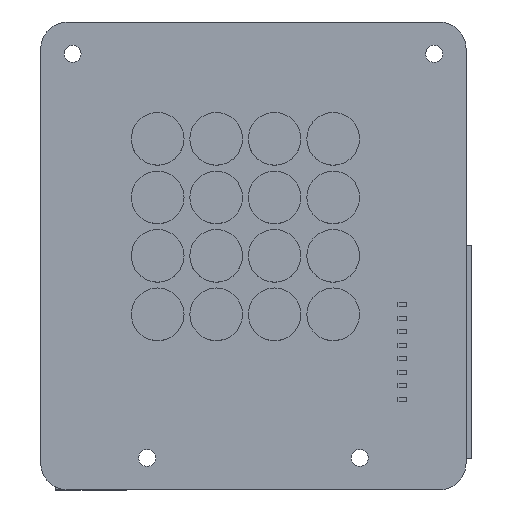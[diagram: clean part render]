
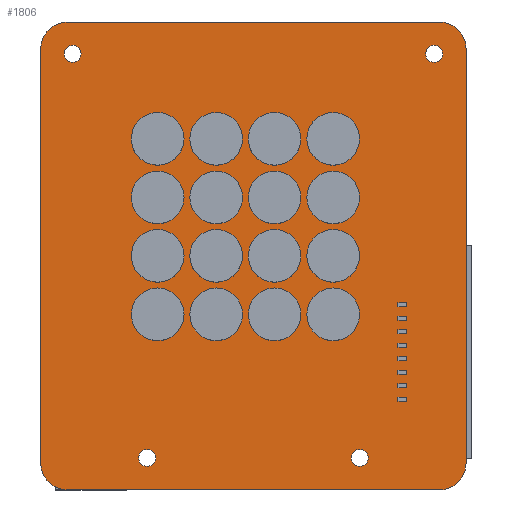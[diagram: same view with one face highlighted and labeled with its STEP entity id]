
A CAD part, top view. The second image highlights one B-rep face of the part: STEP entity #1806.
In plain terms, the highlighted planar face has unit normal (0, 0, 1).
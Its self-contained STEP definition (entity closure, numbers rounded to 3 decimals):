
#20 = AXIS2_PLACEMENT_3D ( 'NONE', #4452, #5253, #8046 ) ;
#189 = CARTESIAN_POINT ( 'NONE',  ( 41.5, -44.5, 0. ) ) ;
#225 = CIRCLE ( 'NONE', #4832, 5. ) ;
#297 = CARTESIAN_POINT ( 'NONE',  ( 36.5, -44.5, 0. ) ) ;
#321 = DIRECTION ( 'NONE',  ( 0., 0., 1. ) ) ;
#332 = CARTESIAN_POINT ( 'NONE',  ( 35.5, 32.5, 0. ) ) ;
#378 = ORIENTED_EDGE ( 'NONE', *, *, #4892, .F. ) ;
#558 = AXIS2_PLACEMENT_3D ( 'NONE', #7488, #2281, #4003 ) ;
#590 = EDGE_CURVE ( 'NONE', #10795, #3404, #10959, .T. ) ;
#726 = CARTESIAN_POINT ( 'NONE',  ( -16.9, -43.5, 0. ) ) ;
#751 = CIRCLE ( 'NONE', #558, 5. ) ;
#1052 = CARTESIAN_POINT ( 'NONE',  ( 33.9, 32.5, 0. ) ) ;
#1063 = VECTOR ( 'NONE', #1127, 1000. ) ;
#1074 = LINE ( 'NONE', #4716, #1063 ) ;
#1109 = VERTEX_POINT ( 'NONE', #10925 ) ;
#1127 = DIRECTION ( 'NONE',  ( 0., -1., 0. ) ) ;
#1201 = DIRECTION ( 'NONE',  ( 1., 0., 0. ) ) ;
#1223 = DIRECTION ( 'NONE',  ( 1., 0., 0. ) ) ;
#1283 = ORIENTED_EDGE ( 'NONE', *, *, #3046, .F. ) ;
#1292 = CARTESIAN_POINT ( 'NONE',  ( -38.5, 33.5, 0. ) ) ;
#1441 = VERTEX_POINT ( 'NONE', #6553 ) ;
#1482 = DIRECTION ( 'NONE',  ( 0., 0., 1. ) ) ;
#1484 = EDGE_CURVE ( 'NONE', #2871, #1441, #9081, .T. ) ;
#1625 = ORIENTED_EDGE ( 'NONE', *, *, #10818, .T. ) ;
#1645 = DIRECTION ( 'NONE',  ( 0., 0., 1. ) ) ;
#1762 = VERTEX_POINT ( 'NONE', #7730 ) ;
#1806 = ADVANCED_FACE ( 'NONE', ( #5820, #5999, #8648, #3332, #2356 ), #6922, .T. ) ;
#1850 = ORIENTED_EDGE ( 'NONE', *, *, #590, .F. ) ;
#1858 = CARTESIAN_POINT ( 'NONE',  ( 21.5, -43.5, 0. ) ) ;
#2072 = DIRECTION ( 'NONE',  ( 0., 0., 1. ) ) ;
#2130 = DIRECTION ( 'NONE',  ( 1., 0., 0. ) ) ;
#2240 = EDGE_CURVE ( 'NONE', #7969, #1762, #3371, .T. ) ;
#2281 = DIRECTION ( 'NONE',  ( 0., 0., 1. ) ) ;
#2303 = DIRECTION ( 'NONE',  ( 1., 0., 0. ) ) ;
#2328 = ORIENTED_EDGE ( 'NONE', *, *, #5168, .F. ) ;
#2356 = FACE_BOUND ( 'NONE', #9980, .T. ) ;
#2471 = CARTESIAN_POINT ( 'NONE',  ( 19.9, -43.5, 0. ) ) ;
#2514 = ORIENTED_EDGE ( 'NONE', *, *, #7400, .F. ) ;
#2537 = EDGE_LOOP ( 'NONE', ( #7343, #2328 ) ) ;
#2616 = CIRCLE ( 'NONE', #20, 5. ) ;
#2871 = VERTEX_POINT ( 'NONE', #8041 ) ;
#2926 = DIRECTION ( 'NONE',  ( 1., 0., 0. ) ) ;
#3036 = CARTESIAN_POINT ( 'NONE',  ( -18.5, -43.5, 0. ) ) ;
#3046 = EDGE_CURVE ( 'NONE', #1762, #7969, #5206, .T. ) ;
#3104 = CARTESIAN_POINT ( 'NONE',  ( -32.5, 32.5, 0. ) ) ;
#3237 = CARTESIAN_POINT ( 'NONE',  ( -33.5, 38.5, 0. ) ) ;
#3332 = FACE_BOUND ( 'NONE', #10887, .T. ) ;
#3339 = EDGE_CURVE ( 'NONE', #4843, #3742, #9281, .T. ) ;
#3371 = CIRCLE ( 'NONE', #8909, 1.6 ) ;
#3404 = VERTEX_POINT ( 'NONE', #5643 ) ;
#3601 = CARTESIAN_POINT ( 'NONE',  ( 36.5, 38.5, 0. ) ) ;
#3665 = DIRECTION ( 'NONE',  ( 0., 0., 1. ) ) ;
#3742 = VERTEX_POINT ( 'NONE', #6452 ) ;
#3888 = DIRECTION ( 'NONE',  ( 0., 1., 0. ) ) ;
#3910 = CARTESIAN_POINT ( 'NONE',  ( 36.5, 33.5, 0. ) ) ;
#3986 = DIRECTION ( 'NONE',  ( 1., 0., 0. ) ) ;
#4003 = DIRECTION ( 'NONE',  ( 1., 0., 0. ) ) ;
#4072 = CIRCLE ( 'NONE', #7412, 1.6 ) ;
#4284 = CARTESIAN_POINT ( 'NONE',  ( 41.5, -44.5, 0. ) ) ;
#4381 = AXIS2_PLACEMENT_3D ( 'NONE', #8273, #6720, #3986 ) ;
#4452 = CARTESIAN_POINT ( 'NONE',  ( -33.5, -44.5, 0. ) ) ;
#4455 = CIRCLE ( 'NONE', #10936, 1.6 ) ;
#4470 = DIRECTION ( 'NONE',  ( 1., 0., 0. ) ) ;
#4496 = AXIS2_PLACEMENT_3D ( 'NONE', #3104, #10065, #11090 ) ;
#4503 = EDGE_CURVE ( 'NONE', #7206, #5685, #225, .T. ) ;
#4579 = CIRCLE ( 'NONE', #6250, 5. ) ;
#4667 = VERTEX_POINT ( 'NONE', #2471 ) ;
#4716 = CARTESIAN_POINT ( 'NONE',  ( -38.5, 33.5, 0. ) ) ;
#4832 = AXIS2_PLACEMENT_3D ( 'NONE', #3910, #321, #10171 ) ;
#4843 = VERTEX_POINT ( 'NONE', #8877 ) ;
#4892 = EDGE_CURVE ( 'NONE', #3404, #10795, #4072, .T. ) ;
#4924 = CIRCLE ( 'NONE', #4381, 1.6 ) ;
#4950 = ORIENTED_EDGE ( 'NONE', *, *, #3339, .F. ) ;
#4962 = EDGE_CURVE ( 'NONE', #11404, #10401, #751, .T. ) ;
#5056 = CARTESIAN_POINT ( 'NONE',  ( -33.5, -44.5, 0. ) ) ;
#5168 = EDGE_CURVE ( 'NONE', #1109, #4667, #4455, .T. ) ;
#5206 = CIRCLE ( 'NONE', #8538, 1.6 ) ;
#5253 = DIRECTION ( 'NONE',  ( 0., 0., 1. ) ) ;
#5453 = LINE ( 'NONE', #189, #7912 ) ;
#5623 = EDGE_CURVE ( 'NONE', #9105, #2871, #2616, .T. ) ;
#5643 = CARTESIAN_POINT ( 'NONE',  ( 37.1, 32.5, 0. ) ) ;
#5682 = DIRECTION ( 'NONE',  ( 0., 0., 1. ) ) ;
#5685 = VERTEX_POINT ( 'NONE', #9816 ) ;
#5820 = FACE_BOUND ( 'NONE', #2537, .T. ) ;
#5983 = VERTEX_POINT ( 'NONE', #4284 ) ;
#5999 = FACE_BOUND ( 'NONE', #9425, .T. ) ;
#6250 = AXIS2_PLACEMENT_3D ( 'NONE', #297, #10966, #1223 ) ;
#6357 = VECTOR ( 'NONE', #10791, 1000. ) ;
#6452 = CARTESIAN_POINT ( 'NONE',  ( -30.9, 32.5, 0. ) ) ;
#6460 = ORIENTED_EDGE ( 'NONE', *, *, #1484, .T. ) ;
#6510 = DIRECTION ( 'NONE',  ( 0., 0., 1. ) ) ;
#6553 = CARTESIAN_POINT ( 'NONE',  ( 36.5, -49.5, 0. ) ) ;
#6720 = DIRECTION ( 'NONE',  ( 0., 0., 1. ) ) ;
#6726 = AXIS2_PLACEMENT_3D ( 'NONE', #5056, #1645, #2303 ) ;
#6821 = CARTESIAN_POINT ( 'NONE',  ( 21.5, -43.5, 0. ) ) ;
#6846 = ORIENTED_EDGE ( 'NONE', *, *, #4503, .T. ) ;
#6922 = PLANE ( 'NONE',  #6726 ) ;
#6949 = DIRECTION ( 'NONE',  ( -1., 0., 0. ) ) ;
#7206 = VERTEX_POINT ( 'NONE', #7607 ) ;
#7246 = CARTESIAN_POINT ( 'NONE',  ( -33.5, -49.5, 0. ) ) ;
#7343 = ORIENTED_EDGE ( 'NONE', *, *, #11390, .F. ) ;
#7400 = EDGE_CURVE ( 'NONE', #3742, #4843, #4924, .T. ) ;
#7412 = AXIS2_PLACEMENT_3D ( 'NONE', #11027, #6510, #2926 ) ;
#7488 = CARTESIAN_POINT ( 'NONE',  ( -33.5, 33.5, 0. ) ) ;
#7607 = CARTESIAN_POINT ( 'NONE',  ( 41.5, 33.5, 0. ) ) ;
#7662 = ORIENTED_EDGE ( 'NONE', *, *, #2240, .F. ) ;
#7674 = ORIENTED_EDGE ( 'NONE', *, *, #11004, .T. ) ;
#7730 = CARTESIAN_POINT ( 'NONE',  ( -20.1, -43.5, 0. ) ) ;
#7912 = VECTOR ( 'NONE', #3888, 1000. ) ;
#7929 = ORIENTED_EDGE ( 'NONE', *, *, #4962, .T. ) ;
#7969 = VERTEX_POINT ( 'NONE', #726 ) ;
#8041 = CARTESIAN_POINT ( 'NONE',  ( -33.5, -49.5, 0. ) ) ;
#8046 = DIRECTION ( 'NONE',  ( 1., 0., 0. ) ) ;
#8257 = DIRECTION ( 'NONE',  ( 0., 0., 1. ) ) ;
#8267 = EDGE_CURVE ( 'NONE', #10401, #9105, #1074, .T. ) ;
#8273 = CARTESIAN_POINT ( 'NONE',  ( -32.5, 32.5, 0. ) ) ;
#8538 = AXIS2_PLACEMENT_3D ( 'NONE', #10074, #2072, #2130 ) ;
#8643 = AXIS2_PLACEMENT_3D ( 'NONE', #6821, #1482, #11056 ) ;
#8648 = FACE_OUTER_BOUND ( 'NONE', #9166, .T. ) ;
#8672 = ORIENTED_EDGE ( 'NONE', *, *, #8267, .T. ) ;
#8877 = CARTESIAN_POINT ( 'NONE',  ( -34.1, 32.5, 0. ) ) ;
#8909 = AXIS2_PLACEMENT_3D ( 'NONE', #3036, #5682, #11023 ) ;
#9081 = LINE ( 'NONE', #7246, #6357 ) ;
#9105 = VERTEX_POINT ( 'NONE', #9657 ) ;
#9166 = EDGE_LOOP ( 'NONE', ( #11134, #6460, #1625, #9426, #6846, #7674, #7929, #8672 ) ) ;
#9251 = LINE ( 'NONE', #3601, #9775 ) ;
#9281 = CIRCLE ( 'NONE', #4496, 1.6 ) ;
#9385 = CIRCLE ( 'NONE', #8643, 1.6 ) ;
#9425 = EDGE_LOOP ( 'NONE', ( #4950, #2514 ) ) ;
#9426 = ORIENTED_EDGE ( 'NONE', *, *, #10812, .T. ) ;
#9657 = CARTESIAN_POINT ( 'NONE',  ( -38.5, -44.5, 0. ) ) ;
#9775 = VECTOR ( 'NONE', #6949, 1000. ) ;
#9816 = CARTESIAN_POINT ( 'NONE',  ( 36.5, 38.5, 0. ) ) ;
#9980 = EDGE_LOOP ( 'NONE', ( #1283, #7662 ) ) ;
#10065 = DIRECTION ( 'NONE',  ( 0., 0., 1. ) ) ;
#10074 = CARTESIAN_POINT ( 'NONE',  ( -18.5, -43.5, 0. ) ) ;
#10171 = DIRECTION ( 'NONE',  ( 1., 0., 0. ) ) ;
#10203 = AXIS2_PLACEMENT_3D ( 'NONE', #332, #8257, #1201 ) ;
#10401 = VERTEX_POINT ( 'NONE', #1292 ) ;
#10791 = DIRECTION ( 'NONE',  ( 1., 0., 0. ) ) ;
#10795 = VERTEX_POINT ( 'NONE', #1052 ) ;
#10812 = EDGE_CURVE ( 'NONE', #5983, #7206, #5453, .T. ) ;
#10818 = EDGE_CURVE ( 'NONE', #1441, #5983, #4579, .T. ) ;
#10887 = EDGE_LOOP ( 'NONE', ( #1850, #378 ) ) ;
#10925 = CARTESIAN_POINT ( 'NONE',  ( 23.1, -43.5, 0. ) ) ;
#10936 = AXIS2_PLACEMENT_3D ( 'NONE', #1858, #3665, #4470 ) ;
#10959 = CIRCLE ( 'NONE', #10203, 1.6 ) ;
#10966 = DIRECTION ( 'NONE',  ( 0., 0., 1. ) ) ;
#11004 = EDGE_CURVE ( 'NONE', #5685, #11404, #9251, .T. ) ;
#11023 = DIRECTION ( 'NONE',  ( 1., 0., 0. ) ) ;
#11027 = CARTESIAN_POINT ( 'NONE',  ( 35.5, 32.5, 0. ) ) ;
#11056 = DIRECTION ( 'NONE',  ( 1., 0., 0. ) ) ;
#11090 = DIRECTION ( 'NONE',  ( 1., 0., 0. ) ) ;
#11134 = ORIENTED_EDGE ( 'NONE', *, *, #5623, .T. ) ;
#11390 = EDGE_CURVE ( 'NONE', #4667, #1109, #9385, .T. ) ;
#11404 = VERTEX_POINT ( 'NONE', #3237 ) ;
